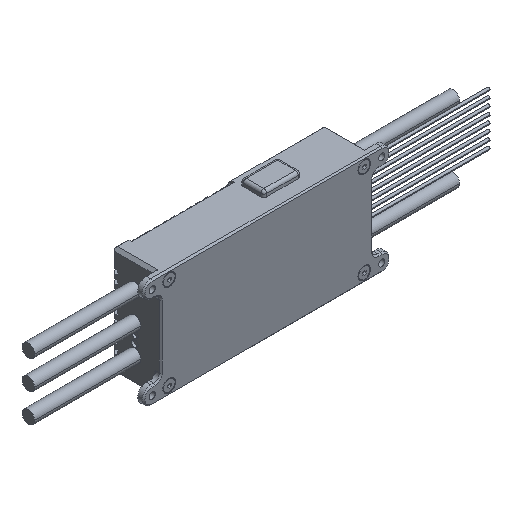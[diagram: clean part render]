
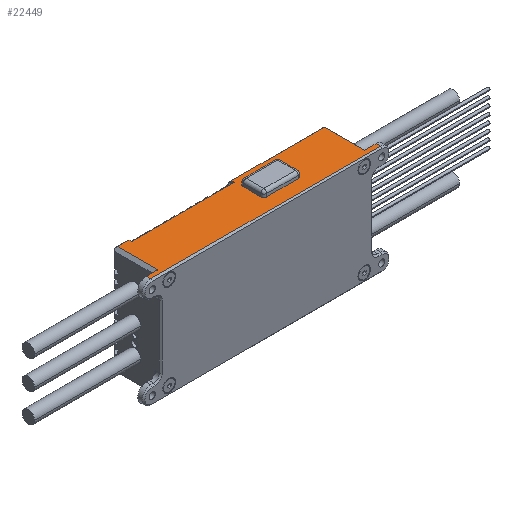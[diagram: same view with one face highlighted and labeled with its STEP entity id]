
A CAD part, isometric view. The second image highlights one B-rep face of the part: STEP entity #22449.
In plain terms, the highlighted planar face has unit normal (0, 0, 1).
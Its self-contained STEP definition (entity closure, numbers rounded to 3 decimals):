
#466=DIRECTION('',(0.,-1.,0.));
#467=VECTOR('',#466,14.);
#468=CARTESIAN_POINT('',(1.,4.,19.));
#469=LINE('',#468,#467);
#494=DIRECTION('',(1.,0.,0.));
#495=VECTOR('',#494,80.);
#496=CARTESIAN_POINT('',(-3.,-11.5,19.));
#497=LINE('',#496,#495);
#501=DIRECTION('',(-1.,0.,0.));
#502=VECTOR('',#501,3.85);
#503=CARTESIAN_POINT('',(4.85,4.,19.));
#504=LINE('',#503,#502);
#508=DIRECTION('',(0.,-1.,0.));
#509=VECTOR('',#508,1.);
#510=CARTESIAN_POINT('',(4.85,4.,19.));
#511=LINE('',#510,#509);
#515=DIRECTION('',(0.,-1.,0.));
#516=VECTOR('',#515,1.);
#517=CARTESIAN_POINT('',(40.75,4.,19.));
#518=LINE('',#517,#516);
#522=DIRECTION('',(-1.,0.,0.));
#523=VECTOR('',#522,32.25);
#524=CARTESIAN_POINT('',(73.,4.,19.));
#525=LINE('',#524,#523);
#529=DIRECTION('',(0.,-1.,0.));
#530=VECTOR('',#529,6.2);
#531=CARTESIAN_POINT('',(40.9,0.2,19.));
#532=LINE('',#531,#530);
#536=CARTESIAN_POINT('',(41.9,-6.,19.));
#537=DIRECTION('',(0.,0.,-1.));
#538=DIRECTION('',(0.,-1.,0.));
#539=AXIS2_PLACEMENT_3D('',#536,#537,#538);
#544=DIRECTION('',(1.,0.,0.));
#545=VECTOR('',#544,11.);
#546=CARTESIAN_POINT('',(41.9,-7.,19.));
#547=LINE('',#546,#545);
#551=CARTESIAN_POINT('',(52.9,-6.,19.));
#552=DIRECTION('',(0.,0.,-1.));
#553=DIRECTION('',(1.,0.,0.));
#554=AXIS2_PLACEMENT_3D('',#551,#552,#553);
#559=DIRECTION('',(0.,1.,0.));
#560=VECTOR('',#559,6.2);
#561=CARTESIAN_POINT('',(53.9,-6.,19.));
#562=LINE('',#561,#560);
#566=CARTESIAN_POINT('',(52.9,0.2,19.));
#567=DIRECTION('',(0.,0.,-1.));
#568=DIRECTION('',(0.,1.,0.));
#569=AXIS2_PLACEMENT_3D('',#566,#567,#568);
#574=DIRECTION('',(-1.,0.,0.));
#575=VECTOR('',#574,11.);
#576=CARTESIAN_POINT('',(52.9,1.2,19.));
#577=LINE('',#576,#575);
#581=CARTESIAN_POINT('',(41.9,0.2,19.));
#582=DIRECTION('',(0.,0.,-1.));
#583=DIRECTION('',(-1.,0.,0.));
#584=AXIS2_PLACEMENT_3D('',#581,#582,#583);
#603=DIRECTION('',(0.,1.,0.));
#604=VECTOR('',#603,14.);
#605=CARTESIAN_POINT('',(73.,-10.,19.));
#606=LINE('',#605,#604);
#969=DIRECTION('',(-1.,0.,0.));
#970=VECTOR('',#969,4.);
#971=CARTESIAN_POINT('',(1.,-10.,19.));
#972=LINE('',#971,#970);
#1015=DIRECTION('',(0.,-1.,0.));
#1016=VECTOR('',#1015,1.5);
#1017=CARTESIAN_POINT('',(-3.,-10.,19.));
#1018=LINE('',#1017,#1016);
#1051=DIRECTION('',(0.,1.,0.));
#1052=VECTOR('',#1051,1.5);
#1053=CARTESIAN_POINT('',(77.,-11.5,19.));
#1054=LINE('',#1053,#1052);
#1058=DIRECTION('',(-1.,0.,0.));
#1059=VECTOR('',#1058,4.);
#1060=CARTESIAN_POINT('',(77.,-10.,19.));
#1061=LINE('',#1060,#1059);
#3317=DIRECTION('',(-1.,0.,0.));
#3318=VECTOR('',#3317,35.9);
#3319=CARTESIAN_POINT('',(40.75,3.,19.));
#3320=LINE('',#3319,#3318);
#21269=CARTESIAN_POINT('',(4.85,3.,19.));
#21270=VERTEX_POINT('',#21269);
#21273=CARTESIAN_POINT('',(40.75,3.,19.));
#21274=VERTEX_POINT('',#21273);
#21299=CARTESIAN_POINT('',(40.75,4.,19.));
#21301=VERTEX_POINT('',#21299);
#21305=CARTESIAN_POINT('',(73.,4.,19.));
#21306=VERTEX_POINT('',#21305);
#21334=CARTESIAN_POINT('',(4.85,4.,19.));
#21336=VERTEX_POINT('',#21334);
#21337=CARTESIAN_POINT('',(1.,4.,19.));
#21338=VERTEX_POINT('',#21337);
#21516=CARTESIAN_POINT('',(-3.,-10.,19.));
#21518=VERTEX_POINT('',#21516);
#21547=CARTESIAN_POINT('',(77.,-10.,19.));
#21549=VERTEX_POINT('',#21547);
#21571=CARTESIAN_POINT('',(77.,-11.5,19.));
#21573=VERTEX_POINT('',#21571);
#21631=CARTESIAN_POINT('',(-3.,-11.5,19.));
#21632=VERTEX_POINT('',#21631);
#21643=CARTESIAN_POINT('',(1.,-10.,19.));
#21644=VERTEX_POINT('',#21643);
#21645=CARTESIAN_POINT('',(73.,-10.,19.));
#21646=VERTEX_POINT('',#21645);
#21795=CARTESIAN_POINT('',(40.9,0.2,19.));
#21796=CARTESIAN_POINT('',(40.9,-6.,19.));
#21797=VERTEX_POINT('',#21795);
#21798=VERTEX_POINT('',#21796);
#21799=CARTESIAN_POINT('',(41.9,-7.,19.));
#21800=CARTESIAN_POINT('',(52.9,-7.,19.));
#21801=VERTEX_POINT('',#21799);
#21802=VERTEX_POINT('',#21800);
#21803=CARTESIAN_POINT('',(53.9,-6.,19.));
#21804=CARTESIAN_POINT('',(53.9,0.2,19.));
#21805=VERTEX_POINT('',#21803);
#21806=VERTEX_POINT('',#21804);
#21807=CARTESIAN_POINT('',(52.9,1.2,19.));
#21808=CARTESIAN_POINT('',(41.9,1.2,19.));
#21809=VERTEX_POINT('',#21807);
#21810=VERTEX_POINT('',#21808);
#22401=CARTESIAN_POINT('',(0.,5.,19.));
#22402=DIRECTION('',(0.,0.,1.));
#22403=DIRECTION('',(0.,-1.,0.));
#22404=AXIS2_PLACEMENT_3D('',#22401,#22402,#22403);
#22405=PLANE('',#22404);
#22407=ORIENTED_EDGE('',*,*,#22406,.F.);
#22409=ORIENTED_EDGE('',*,*,#22408,.F.);
#22411=ORIENTED_EDGE('',*,*,#22410,.F.);
#22413=ORIENTED_EDGE('',*,*,#22412,.F.);
#22415=ORIENTED_EDGE('',*,*,#22414,.F.);
#22417=ORIENTED_EDGE('',*,*,#22416,.F.);
#22418=ORIENTED_EDGE('',*,*,#22382,.F.);
#22420=ORIENTED_EDGE('',*,*,#22419,.F.);
#22422=ORIENTED_EDGE('',*,*,#22421,.T.);
#22424=ORIENTED_EDGE('',*,*,#22423,.F.);
#22426=ORIENTED_EDGE('',*,*,#22425,.F.);
#22428=ORIENTED_EDGE('',*,*,#22427,.F.);
#22429=EDGE_LOOP('',(#22407,#22409,#22411,#22413,#22415,#22417,#22418,#22420,
#22422,#22424,#22426,#22428));
#22430=FACE_OUTER_BOUND('',#22429,.F.);
#22432=ORIENTED_EDGE('',*,*,#22431,.T.);
#22434=ORIENTED_EDGE('',*,*,#22433,.F.);
#22436=ORIENTED_EDGE('',*,*,#22435,.T.);
#22438=ORIENTED_EDGE('',*,*,#22437,.F.);
#22440=ORIENTED_EDGE('',*,*,#22439,.T.);
#22442=ORIENTED_EDGE('',*,*,#22441,.F.);
#22444=ORIENTED_EDGE('',*,*,#22443,.T.);
#22446=ORIENTED_EDGE('',*,*,#22445,.F.);
#22447=EDGE_LOOP('',(#22432,#22434,#22436,#22438,#22440,#22442,#22444,#22446));
#22448=FACE_BOUND('',#22447,.F.);
#22449=ADVANCED_FACE('',(#22430,#22448),#22405,.T.);
#540=CIRCLE('',#539,1.);
#555=CIRCLE('',#554,1.);
#570=CIRCLE('',#569,1.);
#585=CIRCLE('',#584,1.);
#22382=EDGE_CURVE('',#21338,#21644,#469,.T.);
#22406=EDGE_CURVE('',#21646,#21306,#606,.T.);
#22408=EDGE_CURVE('',#21549,#21646,#1061,.T.);
#22410=EDGE_CURVE('',#21573,#21549,#1054,.T.);
#22412=EDGE_CURVE('',#21632,#21573,#497,.T.);
#22414=EDGE_CURVE('',#21518,#21632,#1018,.T.);
#22416=EDGE_CURVE('',#21644,#21518,#972,.T.);
#22419=EDGE_CURVE('',#21336,#21338,#504,.T.);
#22421=EDGE_CURVE('',#21336,#21270,#511,.T.);
#22423=EDGE_CURVE('',#21274,#21270,#3320,.T.);
#22425=EDGE_CURVE('',#21301,#21274,#518,.T.);
#22427=EDGE_CURVE('',#21306,#21301,#525,.T.);
#22431=EDGE_CURVE('',#21797,#21798,#532,.T.);
#22433=EDGE_CURVE('',#21801,#21798,#540,.T.);
#22435=EDGE_CURVE('',#21801,#21802,#547,.T.);
#22437=EDGE_CURVE('',#21805,#21802,#555,.T.);
#22439=EDGE_CURVE('',#21805,#21806,#562,.T.);
#22441=EDGE_CURVE('',#21809,#21806,#570,.T.);
#22443=EDGE_CURVE('',#21809,#21810,#577,.T.);
#22445=EDGE_CURVE('',#21797,#21810,#585,.T.);
